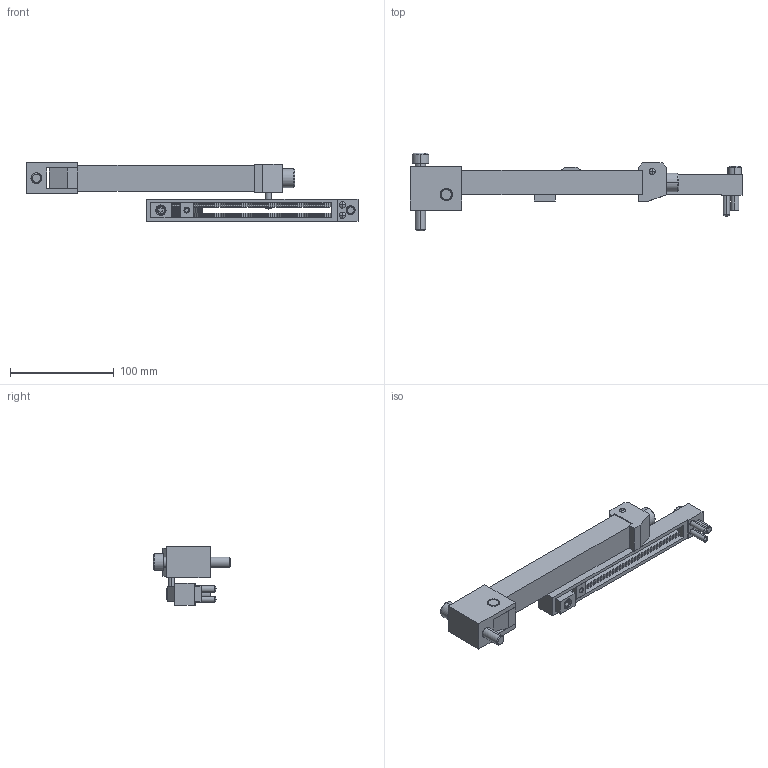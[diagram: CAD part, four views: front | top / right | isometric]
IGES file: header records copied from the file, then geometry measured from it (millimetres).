
Start section: START RECORD GO HERE.
Global section: file name: BOX200R.igs; native system: DASSAULT SYSTEMES CATIA V5 R20 - www.3ds.com; preprocessor: CATIA Version 5 Release 20 ; author: Utente; organization: NB04-ASUS; date: 20210221.175421; units: millimetre
Bounding box: 320 x 75 x 56.5 mm (x, y, z)
Surface area: 86101.2 mm2 (no closed solid volume)
Topology: 0 solids, 0 shells, 1045 faces, 6128 edges, 6102 vertices
Faces by surface type: plane 923, revolution 122
